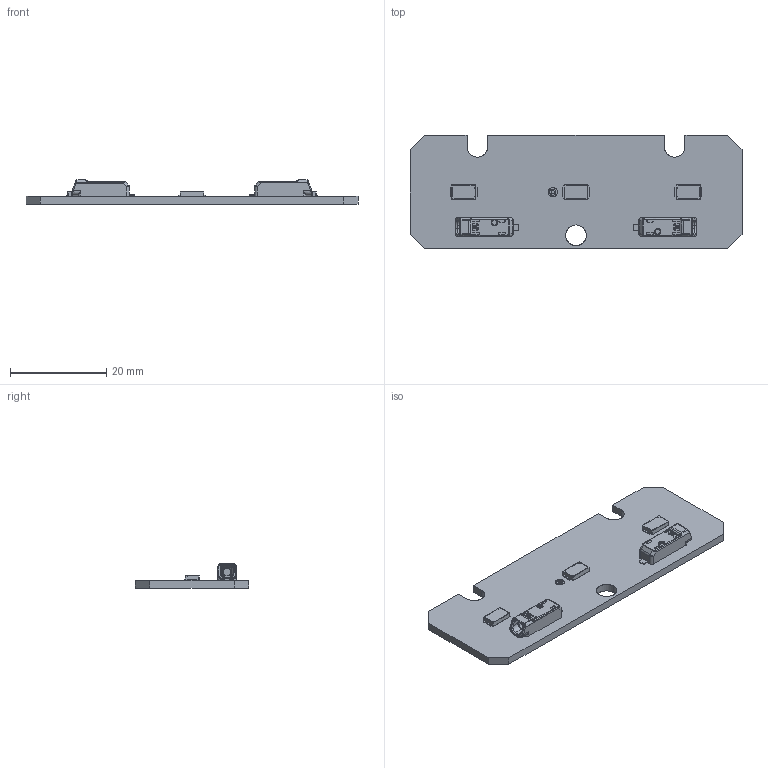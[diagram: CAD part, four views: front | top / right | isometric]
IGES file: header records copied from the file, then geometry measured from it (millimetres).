
Start section: SolidWorks IGES file using analytic representation for surfaces
Global section: file name: C:\Users\bernhard.fink\Desktop\16207822_lle-g4-70-160lm-adv.IGS; native system: SolidWorks 2014; preprocessor: SolidWorks 2014; author: bernhard.fink; date: 170914.110106; units: millimetre
Bounding box: 69 x 23.6 x 5.1 mm (x, y, z)
Surface area: 4032.2 mm2 (no closed solid volume)
Topology: 0 solids, 0 shells, 666 faces, 4514 edges, 4506 vertices
Faces by surface type: bspline 446, revolution 220
